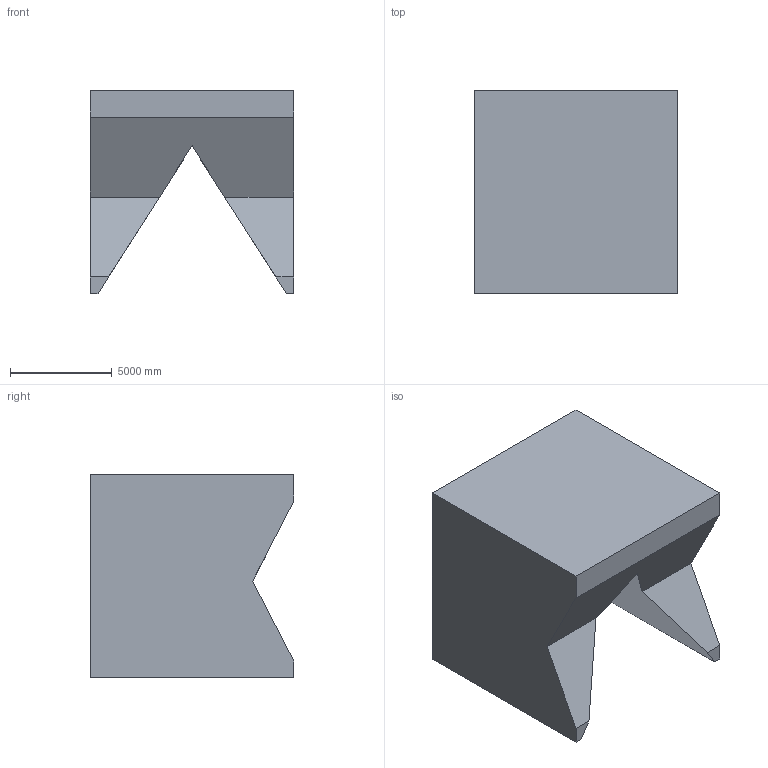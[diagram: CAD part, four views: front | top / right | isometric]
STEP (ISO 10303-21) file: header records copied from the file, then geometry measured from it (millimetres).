
FILE_DESCRIPTION (( 'STEP AP203' ), '1' );
FILE_NAME ('1066.STEP', '2022-08-18T12:37:39', ( 'user' ), ( '' ), 'SwSTEP 2.0', 'SolidWorks 2021', '' );
FILE_SCHEMA (( 'CONFIG_CONTROL_DESIGN' ));
Length unit declared in the file: centimetre
Products named in the file (1): 1066
Bounding box: 10000 x 10000 x 10000 mm (x, y, z)
Volume: 609974339688.3 mm3; surface area: 585438080.5 mm2
Topology: 1 solids, 1 shells, 14 faces, 36 edges, 24 vertices
Faces by surface type: plane 14
Entity records: 497 total; most frequent: CARTESIAN_POINT 75, ORIENTED_EDGE 72, DIRECTION 66, EDGE_CURVE 36, LINE 36, VECTOR 36, VERTEX_POINT 24, AXIS2_PLACEMENT_3D 15
